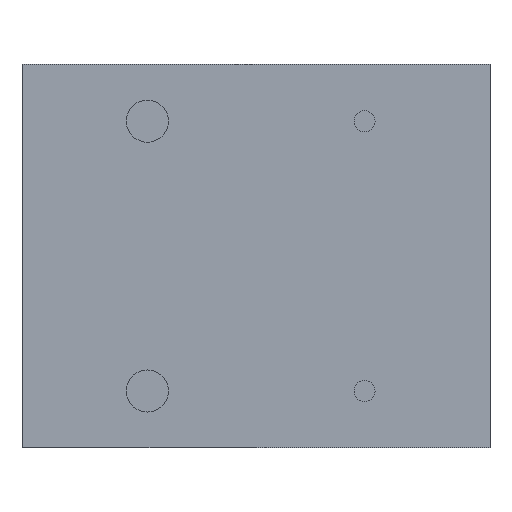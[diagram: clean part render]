
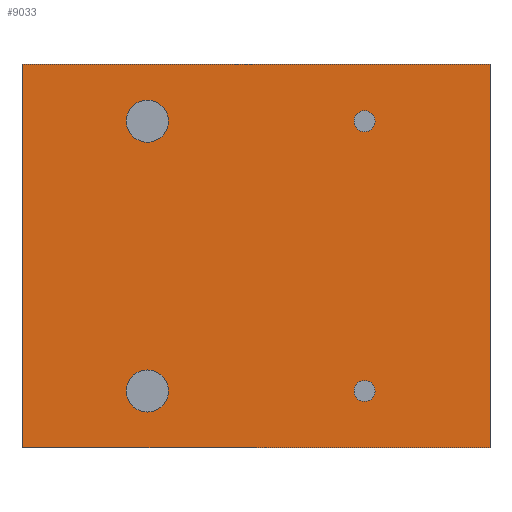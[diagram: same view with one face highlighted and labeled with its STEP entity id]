
A CAD part, front view. The second image highlights one B-rep face of the part: STEP entity #9033.
In plain terms, the highlighted planar face has unit normal (0, -1, 0).
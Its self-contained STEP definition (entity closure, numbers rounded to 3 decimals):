
#141 = ORIENTED_EDGE ( 'NONE', *, *, #19209, .F. ) ;
#158 = AXIS2_PLACEMENT_3D ( 'NONE', #2464, #15036, #7210 ) ;
#215 = ORIENTED_EDGE ( 'NONE', *, *, #12386, .F. ) ;
#382 = FACE_BOUND ( 'NONE', #874, .T. ) ;
#459 = VERTEX_POINT ( 'NONE', #17318 ) ;
#663 = DIRECTION ( 'NONE',  ( 0., -1., 0. ) ) ;
#747 = CARTESIAN_POINT ( 'NONE',  ( -11.1, 0., 9.1 ) ) ;
#839 = CIRCLE ( 'NONE', #20232, 0.5 ) ;
#874 = EDGE_LOOP ( 'NONE', ( #215, #9821 ) ) ;
#1310 = CARTESIAN_POINT ( 'NONE',  ( 11.1, 0., -9.1 ) ) ;
#1358 = CARTESIAN_POINT ( 'NONE',  ( 5.15, 0., 6.4 ) ) ;
#2110 = ORIENTED_EDGE ( 'NONE', *, *, #2730, .F. ) ;
#2304 = LINE ( 'NONE', #747, #6387 ) ;
#2341 = EDGE_CURVE ( 'NONE', #459, #14271, #2304, .T. ) ;
#2363 = ORIENTED_EDGE ( 'NONE', *, *, #11153, .F. ) ;
#2368 = LINE ( 'NONE', #4034, #5422 ) ;
#2464 = CARTESIAN_POINT ( 'NONE',  ( -5.15, 0., 6.4 ) ) ;
#2730 = EDGE_CURVE ( 'NONE', #3716, #459, #3080, .T. ) ;
#2789 = DIRECTION ( 'NONE',  ( 1., 0., 0. ) ) ;
#3080 = LINE ( 'NONE', #14430, #3645 ) ;
#3103 = ORIENTED_EDGE ( 'NONE', *, *, #8661, .F. ) ;
#3150 = ORIENTED_EDGE ( 'NONE', *, *, #17072, .F. ) ;
#3517 = AXIS2_PLACEMENT_3D ( 'NONE', #5317, #663, #6965 ) ;
#3645 = VECTOR ( 'NONE', #17091, 1000. ) ;
#3716 = VERTEX_POINT ( 'NONE', #1310 ) ;
#3769 = EDGE_CURVE ( 'NONE', #13426, #8261, #12222, .T. ) ;
#4003 = DIRECTION ( 'NONE',  ( 0., -1., 0. ) ) ;
#4034 = CARTESIAN_POINT ( 'NONE',  ( 11.1, 0., 9.1 ) ) ;
#4203 = EDGE_LOOP ( 'NONE', ( #8505, #13107, #12623, #2110 ) ) ;
#4422 = CIRCLE ( 'NONE', #15255, 0.5 ) ;
#4636 = CARTESIAN_POINT ( 'NONE',  ( -5.15, 0., -5.4 ) ) ;
#4995 = AXIS2_PLACEMENT_3D ( 'NONE', #7816, #17258, #17366 ) ;
#5085 = DIRECTION ( 'NONE',  ( 0., 0., -1. ) ) ;
#5202 = CARTESIAN_POINT ( 'NONE',  ( 5.15, 0., -6.4 ) ) ;
#5275 = VERTEX_POINT ( 'NONE', #11443 ) ;
#5317 = CARTESIAN_POINT ( 'NONE',  ( 5.15, 0., -6.4 ) ) ;
#5422 = VECTOR ( 'NONE', #8776, 1000. ) ;
#5741 = VERTEX_POINT ( 'NONE', #14588 ) ;
#5840 = DIRECTION ( 'NONE',  ( 0., 0., -1. ) ) ;
#6043 = EDGE_LOOP ( 'NONE', ( #8482, #20334 ) ) ;
#6080 = CIRCLE ( 'NONE', #3517, 0.5 ) ;
#6173 = CARTESIAN_POINT ( 'NONE',  ( -5.15, 0., -6.4 ) ) ;
#6387 = VECTOR ( 'NONE', #17736, 1000. ) ;
#6522 = DIRECTION ( 'NONE',  ( 0., 0., -1. ) ) ;
#6575 = FACE_BOUND ( 'NONE', #19911, .T. ) ;
#6727 = DIRECTION ( 'NONE',  ( 0., -1., 0. ) ) ;
#6753 = CIRCLE ( 'NONE', #18883, 1. ) ;
#6965 = DIRECTION ( 'NONE',  ( 0., 0., -1. ) ) ;
#7082 = CARTESIAN_POINT ( 'NONE',  ( 11.1, 0., 9.1 ) ) ;
#7210 = DIRECTION ( 'NONE',  ( 0., 0., -1. ) ) ;
#7463 = DIRECTION ( 'NONE',  ( 0., 0., -1. ) ) ;
#7816 = CARTESIAN_POINT ( 'NONE',  ( 5.15, 0., 6.4 ) ) ;
#8261 = VERTEX_POINT ( 'NONE', #16396 ) ;
#8443 = PLANE ( 'NONE',  #14981 ) ;
#8482 = ORIENTED_EDGE ( 'NONE', *, *, #9873, .F. ) ;
#8500 = DIRECTION ( 'NONE',  ( 0., -1., 0. ) ) ;
#8505 = ORIENTED_EDGE ( 'NONE', *, *, #17348, .F. ) ;
#8661 = EDGE_CURVE ( 'NONE', #13762, #5275, #10368, .T. ) ;
#8776 = DIRECTION ( 'NONE',  ( 0., 0., -1. ) ) ;
#8802 = CIRCLE ( 'NONE', #19261, 1. ) ;
#9033 = ADVANCED_FACE ( 'NONE', ( #6575, #16048, #382, #17670, #12879 ), #8443, .T. ) ;
#9119 = VERTEX_POINT ( 'NONE', #13573 ) ;
#9270 = DIRECTION ( 'NONE',  ( 0., -1., 0. ) ) ;
#9503 = EDGE_CURVE ( 'NONE', #9119, #5741, #839, .T. ) ;
#9587 = CARTESIAN_POINT ( 'NONE',  ( 5.15, 0., 5.9 ) ) ;
#9821 = ORIENTED_EDGE ( 'NONE', *, *, #3769, .F. ) ;
#9873 = EDGE_CURVE ( 'NONE', #5741, #9119, #6080, .T. ) ;
#10368 = CIRCLE ( 'NONE', #158, 1. ) ;
#10761 = VERTEX_POINT ( 'NONE', #17194 ) ;
#10825 = CARTESIAN_POINT ( 'NONE',  ( -11.1, 0., 9.1 ) ) ;
#11153 = EDGE_CURVE ( 'NONE', #5275, #13762, #8802, .T. ) ;
#11443 = CARTESIAN_POINT ( 'NONE',  ( -5.15, 0., 5.4 ) ) ;
#11500 = EDGE_LOOP ( 'NONE', ( #3150, #141 ) ) ;
#11810 = CARTESIAN_POINT ( 'NONE',  ( 0., 0., 0. ) ) ;
#12096 = VERTEX_POINT ( 'NONE', #4636 ) ;
#12222 = CIRCLE ( 'NONE', #4995, 0.5 ) ;
#12386 = EDGE_CURVE ( 'NONE', #8261, #13426, #4422, .T. ) ;
#12506 = DIRECTION ( 'NONE',  ( 0., -1., 0. ) ) ;
#12623 = ORIENTED_EDGE ( 'NONE', *, *, #2341, .F. ) ;
#12879 = FACE_OUTER_BOUND ( 'NONE', #4203, .T. ) ;
#13107 = ORIENTED_EDGE ( 'NONE', *, *, #18432, .F. ) ;
#13426 = VERTEX_POINT ( 'NONE', #9587 ) ;
#13573 = CARTESIAN_POINT ( 'NONE',  ( 5.15, 0., -6.9 ) ) ;
#13762 = VERTEX_POINT ( 'NONE', #16172 ) ;
#14271 = VERTEX_POINT ( 'NONE', #16962 ) ;
#14430 = CARTESIAN_POINT ( 'NONE',  ( -11.1, 0., -9.1 ) ) ;
#14588 = CARTESIAN_POINT ( 'NONE',  ( 5.15, 0., -5.9 ) ) ;
#14774 = DIRECTION ( 'NONE',  ( 0., 0., -1. ) ) ;
#14981 = AXIS2_PLACEMENT_3D ( 'NONE', #11810, #4003, #5840 ) ;
#15036 = DIRECTION ( 'NONE',  ( 0., -1., 0. ) ) ;
#15255 = AXIS2_PLACEMENT_3D ( 'NONE', #1358, #12506, #6522 ) ;
#15271 = DIRECTION ( 'NONE',  ( 0., -1., 0. ) ) ;
#15528 = DIRECTION ( 'NONE',  ( 0., 0., -1. ) ) ;
#15942 = VECTOR ( 'NONE', #2789, 1000. ) ;
#16048 = FACE_BOUND ( 'NONE', #11500, .T. ) ;
#16172 = CARTESIAN_POINT ( 'NONE',  ( -5.15, 0., 7.4 ) ) ;
#16396 = CARTESIAN_POINT ( 'NONE',  ( 5.15, 0., 6.9 ) ) ;
#16630 = CARTESIAN_POINT ( 'NONE',  ( -5.15, 0., -6.4 ) ) ;
#16785 = VERTEX_POINT ( 'NONE', #7082 ) ;
#16962 = CARTESIAN_POINT ( 'NONE',  ( -11.1, 0., 9.1 ) ) ;
#16972 = CIRCLE ( 'NONE', #17944, 1. ) ;
#17072 = EDGE_CURVE ( 'NONE', #12096, #10761, #6753, .T. ) ;
#17091 = DIRECTION ( 'NONE',  ( -1., 0., 0. ) ) ;
#17194 = CARTESIAN_POINT ( 'NONE',  ( -5.15, 0., -7.4 ) ) ;
#17258 = DIRECTION ( 'NONE',  ( 0., -1., 0. ) ) ;
#17318 = CARTESIAN_POINT ( 'NONE',  ( -11.1, 0., -9.1 ) ) ;
#17348 = EDGE_CURVE ( 'NONE', #16785, #3716, #2368, .T. ) ;
#17366 = DIRECTION ( 'NONE',  ( 0., 0., -1. ) ) ;
#17670 = FACE_BOUND ( 'NONE', #6043, .T. ) ;
#17736 = DIRECTION ( 'NONE',  ( 0., 0., 1. ) ) ;
#17831 = CARTESIAN_POINT ( 'NONE',  ( -5.15, 0., 6.4 ) ) ;
#17944 = AXIS2_PLACEMENT_3D ( 'NONE', #6173, #9270, #15528 ) ;
#18432 = EDGE_CURVE ( 'NONE', #14271, #16785, #20169, .T. ) ;
#18883 = AXIS2_PLACEMENT_3D ( 'NONE', #16630, #15271, #7463 ) ;
#19209 = EDGE_CURVE ( 'NONE', #10761, #12096, #16972, .T. ) ;
#19261 = AXIS2_PLACEMENT_3D ( 'NONE', #17831, #8500, #14774 ) ;
#19911 = EDGE_LOOP ( 'NONE', ( #3103, #2363 ) ) ;
#20169 = LINE ( 'NONE', #10825, #15942 ) ;
#20232 = AXIS2_PLACEMENT_3D ( 'NONE', #5202, #6727, #5085 ) ;
#20334 = ORIENTED_EDGE ( 'NONE', *, *, #9503, .F. ) ;
